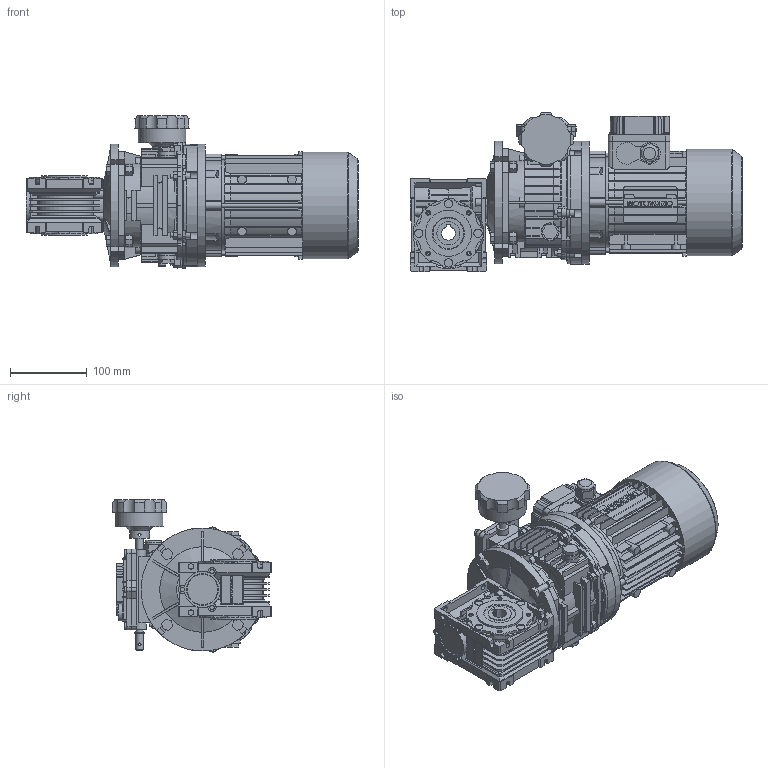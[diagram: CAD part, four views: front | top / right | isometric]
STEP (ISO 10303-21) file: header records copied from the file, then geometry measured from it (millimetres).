
FILE_DESCRIPTION(/* description */ ('STEP AP203'),/* implementation_level */ '2;1');
FILE_NAME(/* name */ 'TXF_NMRV_005_040_160x14_160x14_18_BS_B3_CM_1_AD_T_071_IC411_B5_A002_STD_1',/* time_stamp */ '2026-07-07T08:23:29+02:00',/* author */ ('License CC BY-ND 4.0'),/* organization */ ('CADENAS'),/* preprocessor_version */ 'ST-DEVELOPER v20',/* originating_system */ 'PARTsolutions',/* authorisation */ ' ');
FILE_SCHEMA (('CONFIG_CONTROL_DESIGN'));
Length unit declared in the file: millimetre
Products named in the file (19): TXF/NMRV 005/040 160x14 160x14 18 BS/B3 CM 1 AD T 071 IC411 B5 A002 S
TD 1; Gear unit 40; 040-18 (78)alc-n; VB 040-14 (14); 40-71 B5; TXF005160x1416014x30CMAD1-T071-IC411B5--A002STD1-d; Body-6005012-TXF; 600206; 600503160(160x14); 600517; FLANGIA_T071B5-; CARCASSA_T-071IC411B514X30NONO--; COPRIMORSETTIERA_T071A002; PRESSACAVO_2; COPRIVENTOLA_T_071_IC411_NO_-_-_-_-_STD; ALBERO_T07114X30NO; 600527142(14x30); 600233(005); 60029942(005)
Assembly tree (18 placements, depth 2):
  TXF/NMRV 005/040 160x14 160x14 18 BS/B3 CM 1 AD T 071 IC411 B5 A002 S
TD 1
    Gear unit 40
    040-18 (78)alc-n
    VB 040-14 (14)
    40-71 B5
    TXF005160x1416014x30CMAD1-T071-IC411B5--A002STD1-d
    Body-6005012-TXF
    600206
    600503160(160x14)
    600517
    FLANGIA_T071B5-
    CARCASSA_T-071IC411B514X30NONO--
    COPRIMORSETTIERA_T071A002
    PRESSACAVO_2
    COPRIVENTOLA_T_071_IC411_NO_-_-_-_-_STD
    ALBERO_T07114X30NO
    600527142(14x30)
    600233(005)
    60029942(005)
Bounding box: 432 x 207.44 x 197.84 mm (x, y, z)
Volume: 5622356.6 mm3; surface area: 751058.4 mm2
Topology: 17 solids, 17 shells, 3481 faces, 9649 edges, 6380 vertices
Faces by surface type: plane 2134, cylinder 1171, cone 166, torus 6, sphere 4
Full cylindrical faces by diameter (mm): 1.8 x1, 2.02 x1, 4 x3, 4.134 x1, 4.917 x9, 5 x4, 5.3 x1, 5.55 x3, 6 x6, 6.4 x1, 6.647 x4, 7 x6, 8 x12, 8.5 x6, 9.5 x4, 10 x15, 10.8 x4, 11 x6, 11.5 x4, 12 x2, 14 x2, 15 x1, 16 x2, 18 x1, 20 x2, 21.9 x1, 22 x3, 23 x4, 25 x2, 26 x2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
Entity records: 111312 total; most frequent: CARTESIAN_POINT 21079, ORIENTED_EDGE 18808, DIRECTION 18796, EDGE_CURVE 9404, AXIS2_PLACEMENT_3D 6442, VERTEX_POINT 6331, LINE 5912, VECTOR 5912
